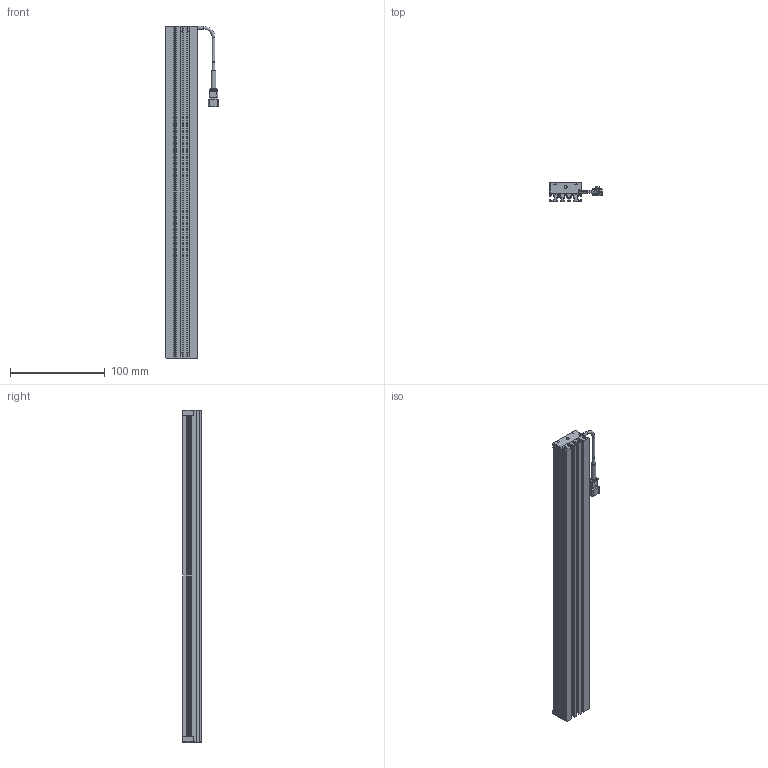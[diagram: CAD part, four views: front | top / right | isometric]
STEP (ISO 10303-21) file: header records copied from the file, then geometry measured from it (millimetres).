
FILE_DESCRIPTION (( 'STEP AP203' ), '1' );
FILE_NAME ('LDL2-338X30GR2.STEP', '2024-10-01T02:36:38', ( 'CCS' ), ( 'シーシーエス株式会社' ), 'SwSTEP 2.0', 'SolidWorks 2022', '' );
FILE_SCHEMA (( 'CONFIG_CONTROL_DESIGN' ));
Length unit declared in the file: millimetre
Products named in the file (7): SMケーブル_LDL2-338X30GR2_パターン2; LDL2-338X30GR2; ブロック30A_LDL2-338X30GR2; レンズ30_LDL2-338X30GR2; フレーム30_LDL2-338X30GR2; ブロック30B_LDL2-338X30GR2; BSCA002-N007_M2x12_CAP(三価ｸﾛﾑ黒色)
Assembly tree (9 placements, depth 2):
  LDL2-338X30GR2
    フレーム30_LDL2-338X30GR2
    レンズ30_LDL2-338X30GR2
    ブロック30B_LDL2-338X30GR2
    ブロック30A_LDL2-338X30GR2
    BSCA002-N007_M2x12_CAP(三価ｸﾛﾑ黒色)  x4
    SMケーブル_LDL2-338X30GR2_パターン2
Bounding box: 55.75 x 20 x 350 mm (x, y, z)
Volume: 182547.5 mm3; surface area: 104871.6 mm2
Topology: 10 solids, 10 shells, 481 faces, 1243 edges, 785 vertices
Faces by surface type: plane 288, cylinder 107, bspline 44, cone 24, torus 18
Entity records: 14886 total; most frequent: CARTESIAN_POINT 4295, ORIENTED_EDGE 2118, DIRECTION 1903, EDGE_CURVE 1059, VECTOR 761, LINE 761, VERTEX_POINT 686, AXIS2_PLACEMENT_3D 571
